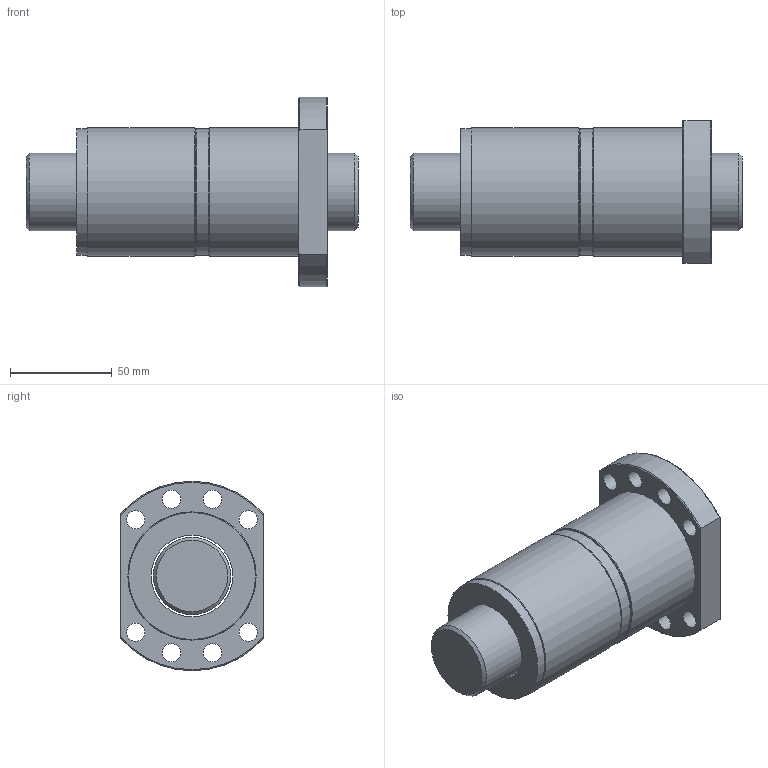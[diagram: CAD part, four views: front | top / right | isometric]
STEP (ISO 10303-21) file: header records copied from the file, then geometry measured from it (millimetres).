
FILE_DESCRIPTION(/* description */ (''),/* implementation_level */ '2;1');
FILE_NAME(/* name */ 'DFS4010',/* time_stamp */ '2007-10-26T13:50:05+08:00',/* author */ (''),/* organization */ (''),/* preprocessor_version */ 'ST-DEVELOPER v9',/* originating_system */ 'UGS - NX 3.0',/* authorisation */ '');
FILE_SCHEMA (('CONFIG_CONTROL_DESIGN'));
Length unit declared in the file: millimetre
Products named in the file (1): jaso15A4i334
Bounding box: 163 x 70 x 93 mm (x, y, z)
Volume: 443173 mm3; surface area: 89900.5 mm2
Topology: 6 solids, 6 shells, 49 faces, 98 edges, 63 vertices
Faces by surface type: cylinder 22, plane 16, torus 9, cone 2
Full cylindrical faces by diameter (mm): 9 x8, 38 x1, 40 x5, 62.105 x1, 62.3 x2, 62.5 x1, 63 x2
Entity records: 1412 total; most frequent: CARTESIAN_POINT 328, DIRECTION 218, ORIENTED_EDGE 142, AXIS2_PLACEMENT_3D 105, EDGE_LOOP 104, FACE_BOUND 80, EDGE_CURVE 71, VERTEX_POINT 63
